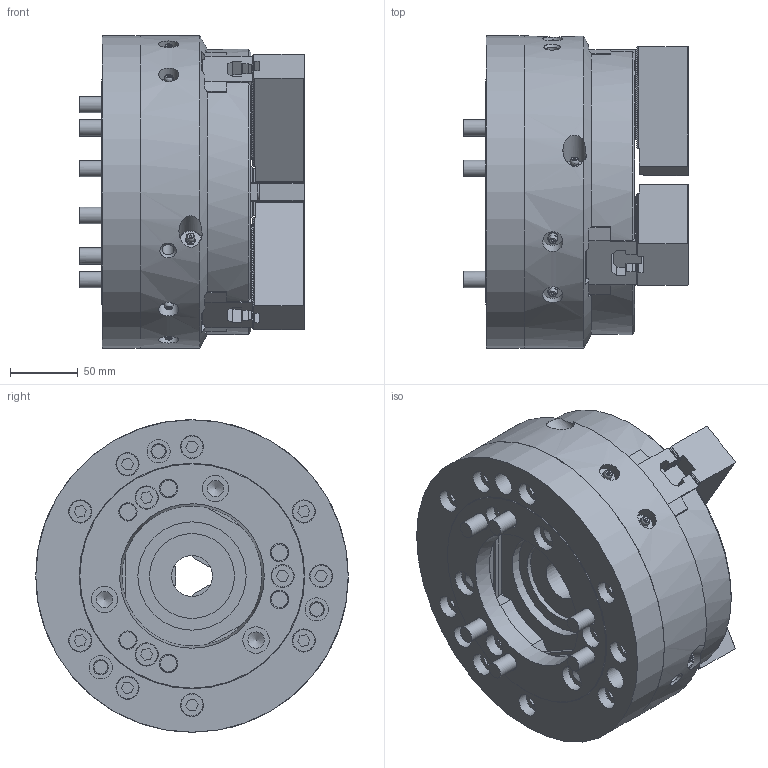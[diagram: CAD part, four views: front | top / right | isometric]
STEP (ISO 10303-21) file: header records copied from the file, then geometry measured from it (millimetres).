
FILE_DESCRIPTION (( 'STEP AP214' ), '1' );
FILE_NAME ('HOH-208_UC.STEP', '2020-03-06T02:36:40', ( '' ), ( '' ), 'SwSTEP 2.0', 'SolidWorks 2017', '' );
FILE_SCHEMA (( 'AUTOMOTIVE_DESIGN' ));
Length unit declared in the file: millimetre
Products named in the file (18): B傾僫僣僉 M12亊302_~30; 61P417260 T僫僢僩b_g; 61P304291_SOFT JAW; 61P304291_SOFT JAW_蹬怮椔; B傾僫僣僉 M12亊302_~30_棉太倌TI佱UA; HOH-208_UC; 61P417260 T僫僢僩b_g_棉太倌佱UA; Part1^61P216925_HOH-208_ASSY_蹬怮椔; Part1^61P216925_HOH-208_ASSY
Assembly tree (13 placements, depth 2):
  B傾僫僣僉 M12亊302_~30
  61P417260 T僫僢僩b_g
  61P304291_SOFT JAW
  B傾僫僣僉 M12亊302_~30
  HOH-208_UC
    Part1^61P216925_HOH-208_ASSY_蹬怮椔
    61P304291_SOFT JAW_蹬怮椔  x3
    61P417260 T僫僢僩b_g_棉太倌佱UA  x3
    B傾僫僣僉 M12亊302_~30_棉太倌TI佱UA  x6
Bounding box: 165.2 x 230 x 230 mm (x, y, z)
Volume: 4152296.5 mm3; surface area: 391823.3 mm2
Topology: 13 solids, 46 shells, 3362 faces, 9437 edges, 6267 vertices
Faces by surface type: plane 2664, cylinder 597, cone 71, sphere 18, torus 12
Full cylindrical faces by diameter (mm): 2 x9, 3 x9, 5.3 x3, 6 x6, 8.5 x2, 9 x3, 10 x6, 10.5 x6, 12 x18, 13 x6, 13.5 x12, 15 x6, 15.7 x3, 16 x15, 17 x18, 18 x12, 19 x6, 19.45 x3, 20 x6, 30 x1, 52 x1, 62.46 x1, 79.625 x1, 217 x1, 230 x2
Entity records: 74976 total; most frequent: CARTESIAN_POINT 15549, ORIENTED_EDGE 12534, DIRECTION 11434, EDGE_CURVE 6267, LINE 5096, VECTOR 5096, VERTEX_POINT 4245, AXIS2_PLACEMENT_3D 3169
